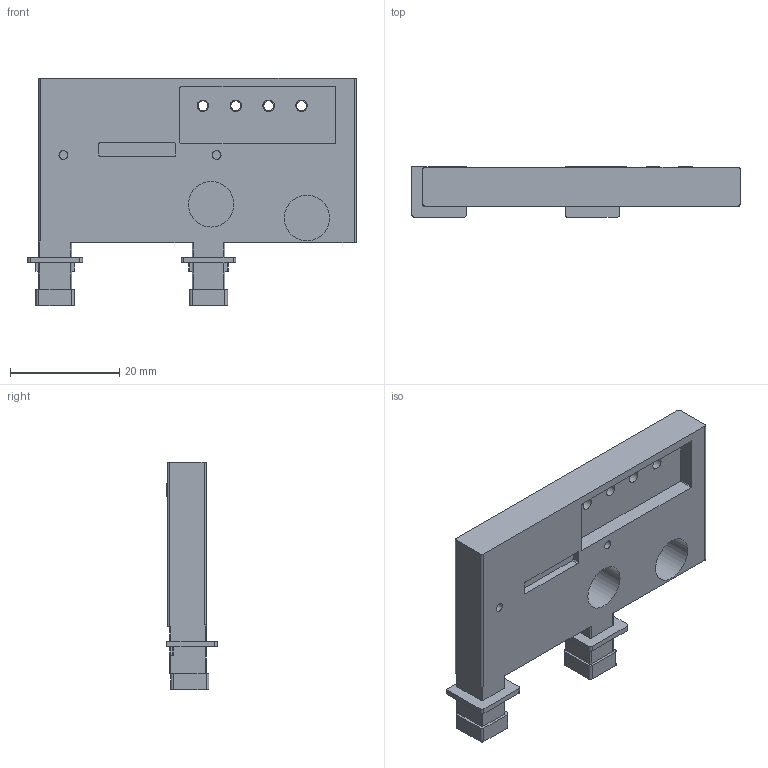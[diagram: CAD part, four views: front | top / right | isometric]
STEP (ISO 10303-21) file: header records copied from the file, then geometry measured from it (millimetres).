
FILE_DESCRIPTION(('FreeCAD Model'),'2;1');
FILE_NAME('Open CASCADE Shape Model','2026-11-13T18:42:35',('FreeCAD'),( 'FreeCAD'),'Open CASCADE STEP processor 7.8','FreeCAD','Unknown');
FILE_SCHEMA(('AUTOMOTIVE_DESIGN { 1 0 10303 214 1 1 1 1 }'));
Length unit declared in the file: millimetre
Products named in the file (1): Open CASCADE STEP translator 7.8 9
Bounding box: 60 x 9.2 x 41.5 mm (x, y, z)
Volume: 11723.6 mm3; surface area: 6446.8 mm2
Topology: 1 solids, 1 shells, 148 faces, 370 edges, 244 vertices
Faces by surface type: plane 82, cylinder 66
Full cylindrical faces by diameter (mm): 1.6 x2, 1.8 x4, 2.1 x4, 2.4 x4, 2.5 x2, 8.3 x2
Entity records: 4464 total; most frequent: DIRECTION 796, CARTESIAN_POINT 767, ORIENTED_EDGE 740, EDGE_CURVE 370, AXIS2_PLACEMENT_3D 281, VERTEX_POINT 244, LINE 234, VECTOR 234
